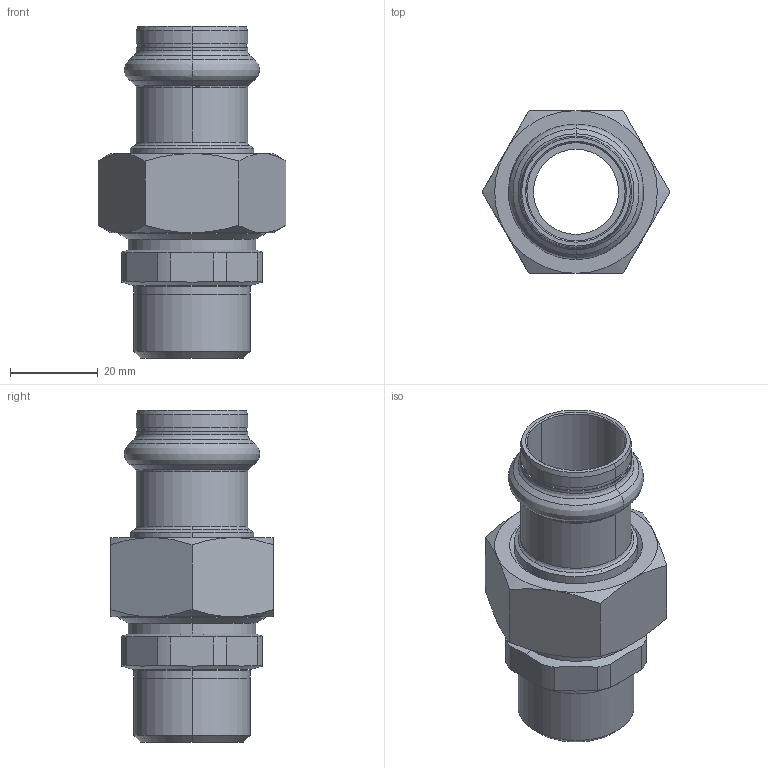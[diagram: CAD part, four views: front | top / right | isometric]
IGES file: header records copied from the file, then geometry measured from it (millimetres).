
Start section: Elysium IGES Interface
Global section: file name: F:\3d modellen sudo\S-Pr VP\SP6331GV\6331GVW2234.igs; native system: CoCreate Modeling 17.00A  17-Jun-2010; preprocessor: CoCreate IGES_3D V2.2; author: Unknown; organization: Unknown; date: 20130128.160148; units: millimetre
Bounding box: 42.72 x 37 x 75.5 mm (x, y, z)
Volume: 29652.6 mm3; surface area: 18144.5 mm2
Topology: 3 solids, 3 shells, 128 faces, 304 edges, 182 vertices
Faces by surface type: bspline 128
